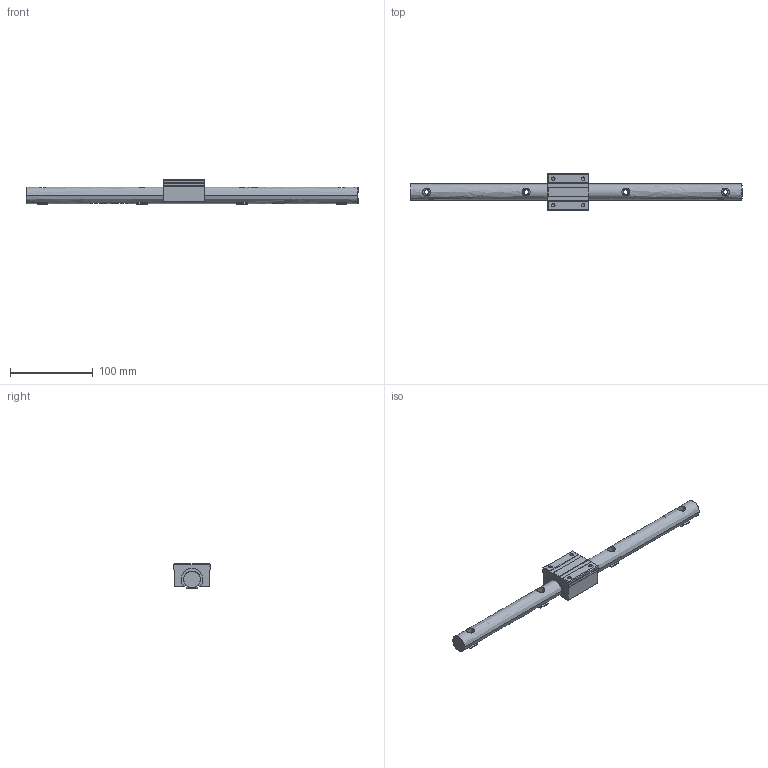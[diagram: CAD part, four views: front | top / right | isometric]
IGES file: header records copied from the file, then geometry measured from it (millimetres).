
Global section: file name: No Iges File Name specified; native system: AutoDesk Inventor R10; preprocessor: AutoDesk Inventor Iges Exporter R10; author: No Author specified; organization: No Organization specified; date: 20101221.093949; units: millimetre
Bounding box: 400 x 44 x 30 mm (x, y, z)
Surface area: 39096.8 mm2 (no closed solid volume)
Topology: 0 solids, 0 shells, 142 faces, 1352 edges, 1344 vertices
Faces by surface type: bspline 142
